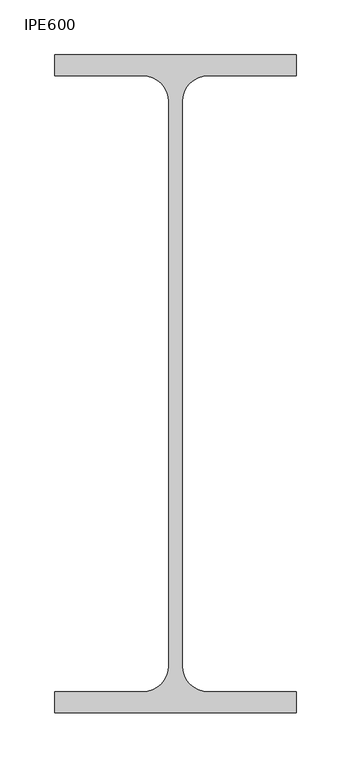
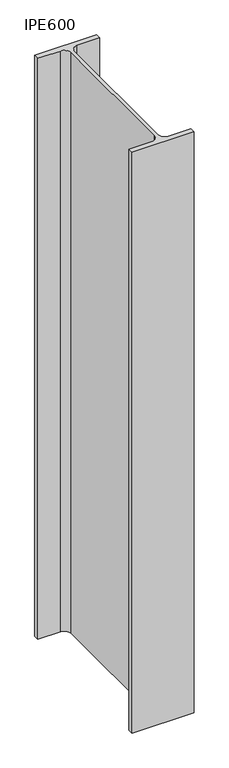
"""IFC4 building model written with IfcOpenShell, lengths in millimetres: column geometry, IPE-Poutrelles-Poteau : IPE600."""

from ifc_helpers import new_model, si_unit, point, frame, frame_2d, origin, place, context, project, spatial, polyline, circle_curve, trimmed, segment, composite_curve, outline, extrude, source, transform, mapped, element, save


def ipe600_4712eb6f(model_context):
    return source(origin(), model_context, "Body", "SweptSolid", [
        extrude(outline(composite_curve([segment(polyline([(110.0, 300.0), (110.0, 281.0), (30.0, 281.0)]), True, "CONTINUOUS"), segment(trimmed(circle_curve(frame_2d((30.0, 257.0)), 24.0), [point((30.0, 281.0))], [point((6.0, 257.0))], True, "CARTESIAN"), True, "CONTINUOUS"), segment(polyline([(6.0, 257.0), (6.0, -257.0)]), True, "CONTINUOUS"), segment(trimmed(circle_curve(frame_2d((30.0, -257.0)), 24.0), [point((6.0, -257.0))], [point((30.0, -281.0))], True, "CARTESIAN"), True, "CONTINUOUS"), segment(polyline([(30.0, -281.0), (110.0, -281.0), (110.0, -300.0), (-110.0, -300.0), (-110.0, -281.0), (-30.0, -281.0)]), True, "CONTINUOUS"), segment(trimmed(circle_curve(frame_2d((-30.0, -257.0)), 24.0), [point((-30.0, -281.0))], [point((-6.0, -257.0))], True, "CARTESIAN"), True, "CONTINUOUS"), segment(polyline([(-6.0, -257.0), (-6.0, 257.0)]), True, "CONTINUOUS"), segment(trimmed(circle_curve(frame_2d((-30.0, 257.0)), 24.0), [point((-6.0, 257.0))], [point((-30.0, 281.0))], True, "CARTESIAN"), True, "CONTINUOUS"), segment(polyline([(-30.0, 281.0), (-110.0, 281.0), (-110.0, 300.0), (110.0, 300.0)]), True, "CONTINUOUS")], self_intersect=False)), frame((0.0, 0.0, -250.0), z_axis=(0.0, 0.0, 1.0), x_axis=(1.0, 0.0, 0.0)), (0.0, 0.0, 1.0), 2180.0),
    ])


if __name__ == "__main__":
    model = new_model("IFC4")
    model_context = context("Model", 3, world=origin())
    ifc_project = project(units=[si_unit("LENGTHUNIT", "METRE", prefix="MILLI")], contexts=[model_context])
    site = spatial("IfcSite", under=ifc_project)
    building = spatial("IfcBuilding", under=site)
    placement = place(None, origin())
    ipe600_shape = ipe600_4712eb6f(model_context)
    element("IfcColumn", 1, ObjectType="IPE-Poutrelles-Poteau : IPE600", at=placement, inside=building, context=model_context, shape_type="MappedRepresentation", body=[
        mapped(ipe600_shape, transform((0.0, 0.0, 0.0), x_axis=(1.0, 0.0, 0.0), y_axis=(0.0, 1.0, 0.0), z_axis=(0.0, 0.0, 1.0))),
    ])
    save(model, "model.ifc")
